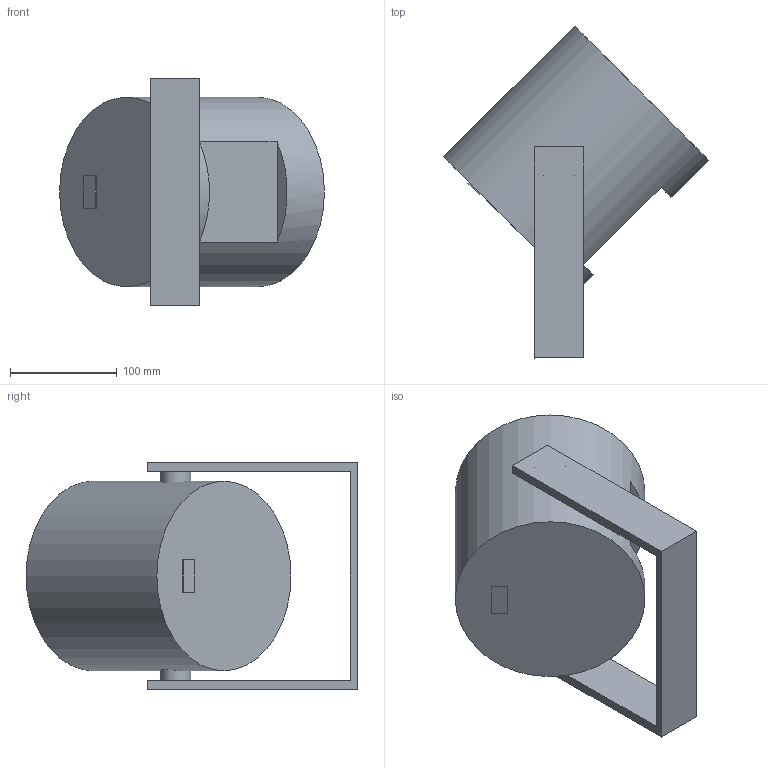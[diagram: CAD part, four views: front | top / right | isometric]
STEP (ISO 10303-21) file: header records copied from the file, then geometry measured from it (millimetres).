
FILE_DESCRIPTION(/* description */ (''),/* implementation_level */ '2;1');
FILE_NAME(/* name */ 'Well Pod 3_45.stp',/* time_stamp */ '2025-04-25T14:55:36-04:00',/* author */ ('chenry'),/* organization */ (''),/* preprocessor_version */ 'ST-DEVELOPER v20',/* originating_system */ 'Autodesk Inventor 2024',/* authorisation */ '');
FILE_SCHEMA (('AUTOMOTIVE_DESIGN { 1 0 10303 214 3 1 1 }'));
Length unit declared in the file: millimetre
Products named in the file (3): 0-CH-W19QB-IP-ALL_ASM; body_0; Braket_0
Assembly tree (2 placements, depth 2):
  0-CH-W19QB-IP-ALL_ASM
    body_0
    Braket_0
Bounding box: 247.69 x 310.27 x 212.4 mm (x, y, z)
Volume: 4241498.7 mm3; surface area: 219555.1 mm2
Topology: 2 solids, 2 shells, 33 faces, 64 edges, 43 vertices
Faces by surface type: plane 26, cylinder 7
Full cylindrical faces by diameter (mm): 28.929 x5, 148.692 x1, 177.283 x1
Entity records: 996 total; most frequent: CARTESIAN_POINT 179, DIRECTION 153, ORIENTED_EDGE 128, EDGE_CURVE 64, AXIS2_PLACEMENT_3D 53, LINE 47, VECTOR 47, VERTEX_POINT 43
